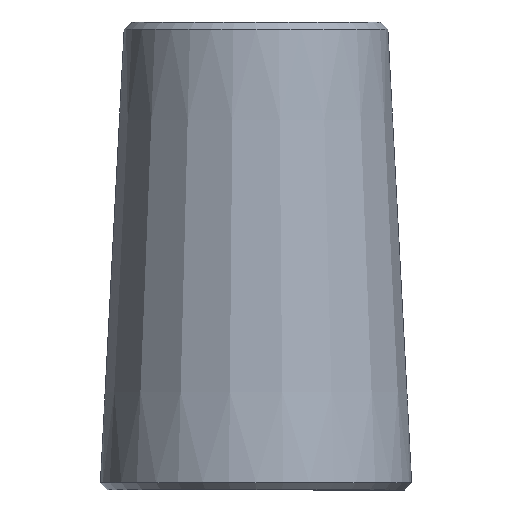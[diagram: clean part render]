
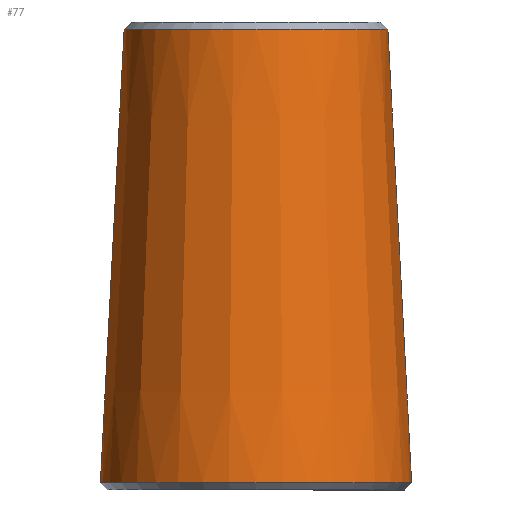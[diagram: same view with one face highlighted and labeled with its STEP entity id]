
A CAD part, left-side view. The second image highlights one B-rep face of the part: STEP entity #77.
In plain terms, the highlighted conical face has half-angle 3 degrees and reference radius 9.675 mm.
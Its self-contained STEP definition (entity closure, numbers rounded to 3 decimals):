
#20=FACE_BOUND('',#34,.T.);
#25=FACE_OUTER_BOUND('',#33,.T.);
#33=EDGE_LOOP('',(#63));
#34=EDGE_LOOP('',(#64));
#44=CIRCLE('',#87,10.474);
#45=CIRCLE('',#89,8.875);
#50=VERTEX_POINT('',#130);
#51=VERTEX_POINT('',#133);
#56=EDGE_CURVE('',#50,#50,#44,.T.);
#57=EDGE_CURVE('',#51,#51,#45,.T.);
#63=ORIENTED_EDGE('',*,*,#57,.F.);
#64=ORIENTED_EDGE('',*,*,#56,.F.);
#74=CONICAL_SURFACE('',#88,9.675,3.);
#77=ADVANCED_FACE('',(#25,#20),#74,.T.);
#87=AXIS2_PLACEMENT_3D('',#131,#104,#105);
#88=AXIS2_PLACEMENT_3D('',#132,#106,#107);
#89=AXIS2_PLACEMENT_3D('',#134,#108,#109);
#104=DIRECTION('center_axis',(0.,0.,
-1.));
#105=DIRECTION('ref_axis',(0.,1.,0.));
#106=DIRECTION('center_axis',(0.,0.,-1.));
#107=DIRECTION('ref_axis',(0.,-1.,0.));
#108=DIRECTION('center_axis',(0.,0.,1.));
#109=DIRECTION('ref_axis',(0.,1.,0.));
#130=CARTESIAN_POINT('',(0.,-10.474,0.499));
#131=CARTESIAN_POINT('Origin',(0.,0.,
0.499));
#132=CARTESIAN_POINT('Origin',(0.,0.,15.75));
#133=CARTESIAN_POINT('',(0.,-8.875,31.001));
#134=CARTESIAN_POINT('Origin',(0.,0.,
31.001));
